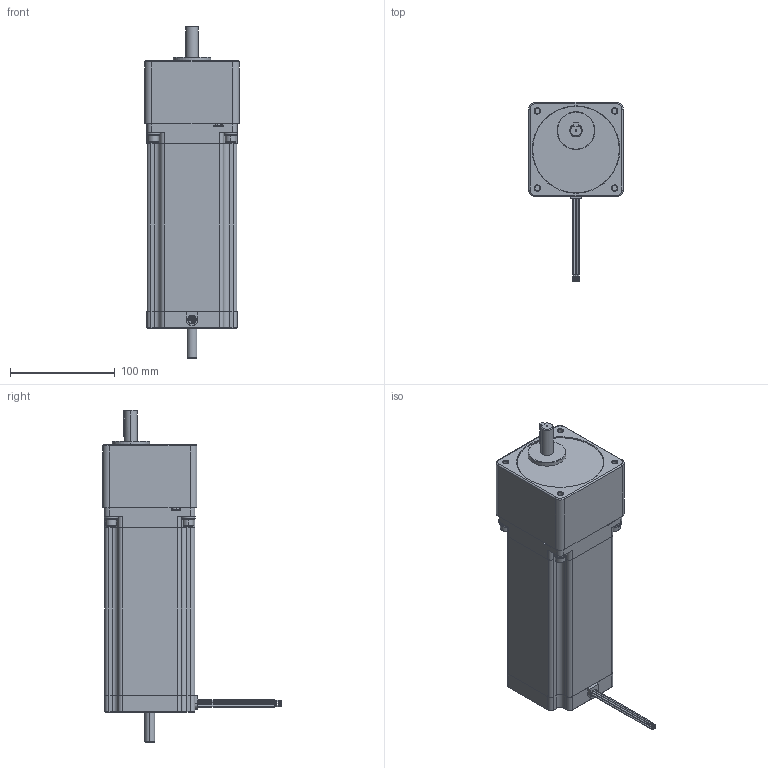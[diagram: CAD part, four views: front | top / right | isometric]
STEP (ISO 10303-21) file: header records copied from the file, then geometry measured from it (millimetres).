
FILE_DESCRIPTION (( 'STEP AP214' ), '1' );
FILE_NAME ('34YSG408D-LW8-R50.STEP', '2010-06-18T16:52:56', ( 'Tim Raines' ), ( 'Anaheim Automation' ), 'SwSTEP 2.0', 'SolidWorks 2010', '' );
FILE_SCHEMA (( 'AUTOMOTIVE_DESIGN' ));
Length unit declared in the file: millimetre
Products named in the file (6): 34YSG408D-LW8-R50; 34YSG Motor_34YSG408D-LW8; Lock Washer Spring Regular_AI_Regular LW 0.25; 34SG Series_34SG2; Socket Head Cap Screw_AM_B18.3.1M - 6 x 1.0 x 20 Hex SHCS -- 20NHX; Flat Washer Narrow_AM_B18.22M - Plain washer, 6 mm, narrow
Assembly tree (14 placements, depth 2):
  34YSG408D-LW8-R50
    Lock Washer Spring Regular_AI_Regular LW 0.25  x4
    Socket Head Cap Screw_AM_B18.3.1M - 6 x 1.0 x 20 Hex SHCS -- 20NHX  x4
    Flat Washer Narrow_AM_B18.22M - Plain washer, 6 mm, narrow  x4
    34SG Series_34SG2
    34YSG Motor_34YSG408D-LW8
Bounding box: 89.92 x 170.43 x 316.51 mm (x, y, z)
Volume: 1786327.6 mm3; surface area: 134891.4 mm2
Topology: 14 solids, 14 shells, 587 faces, 1391 edges, 862 vertices
Faces by surface type: plane 272, cylinder 194, cone 101, torus 20
Entity records: 18773 total; most frequent: CARTESIAN_POINT 2631, DIRECTION 2475, ORIENTED_EDGE 2262, EDGE_CURVE 1131, AXIS2_PLACEMENT_3D 919, VERTEX_POINT 715, VECTOR 637, LINE 637
